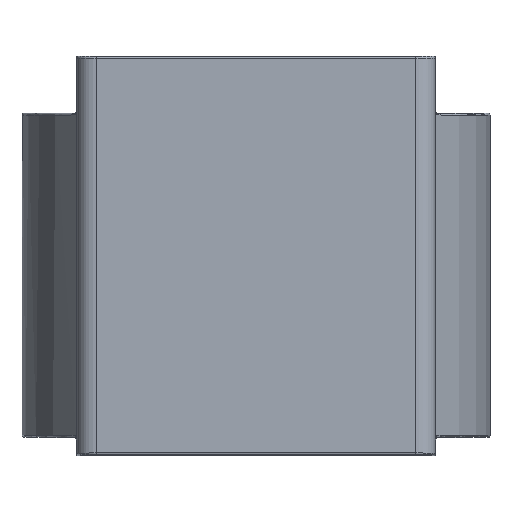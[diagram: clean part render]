
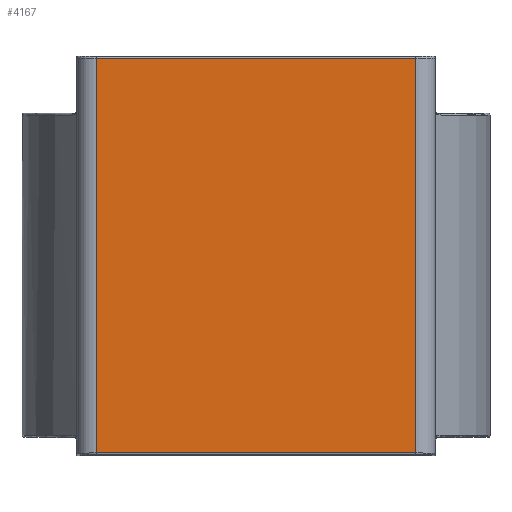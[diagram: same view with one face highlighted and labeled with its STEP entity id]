
A CAD part, top view. The second image highlights one B-rep face of the part: STEP entity #4167.
In plain terms, the highlighted planar face has unit normal (0, 0, 1).
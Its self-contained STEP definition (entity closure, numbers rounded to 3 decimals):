
#1249 = CYLINDRICAL_SURFACE('',#1250,2.2);
#1250 = AXIS2_PLACEMENT_3D('',#1251,#1252,#1253);
#1251 = CARTESIAN_POINT('',(-12.75,146.3,217.85));
#1252 = DIRECTION('',(0.,-1.,0.));
#1253 = DIRECTION('',(0.,0.,1.));
#2306 = EDGE_CURVE('',#2307,#2309,#2311,.T.);
#2307 = VERTEX_POINT('',#2308);
#2308 = CARTESIAN_POINT('',(-12.75,146.09,220.05));
#2309 = VERTEX_POINT('',#2310);
#2310 = CARTESIAN_POINT('',(-12.75,102.21,220.05));
#2311 = SURFACE_CURVE('',#2312,(#2316,#2323),.PCURVE_S1.);
#2312 = LINE('',#2313,#2314);
#2313 = CARTESIAN_POINT('',(-12.75,146.3,220.05));
#2314 = VECTOR('',#2315,1.);
#2315 = DIRECTION('',(0.,-1.,0.));
#2316 = PCURVE('',#1249,#2317);
#2317 = DEFINITIONAL_REPRESENTATION('',(#2318),#2322);
#2318 = LINE('',#2319,#2320);
#2319 = CARTESIAN_POINT('',(0.,0.));
#2320 = VECTOR('',#2321,1.);
#2321 = DIRECTION('',(0.,1.));
#2322 = ( GEOMETRIC_REPRESENTATION_CONTEXT(2) 
PARAMETRIC_REPRESENTATION_CONTEXT() REPRESENTATION_CONTEXT('2D SPACE',''
  ) );
#2323 = PCURVE('',#2324,#2329);
#2324 = PLANE('',#2325);
#2325 = AXIS2_PLACEMENT_3D('',#2326,#2327,#2328);
#2326 = CARTESIAN_POINT('',(24.95,146.3,220.05));
#2327 = DIRECTION('',(0.,0.,1.));
#2328 = DIRECTION('',(0.,-1.,0.));
#2329 = DEFINITIONAL_REPRESENTATION('',(#2330),#2334);
#2330 = LINE('',#2331,#2332);
#2331 = CARTESIAN_POINT('',(0.,-37.7));
#2332 = VECTOR('',#2333,1.);
#2333 = DIRECTION('',(1.,0.));
#2334 = ( GEOMETRIC_REPRESENTATION_CONTEXT(2) 
PARAMETRIC_REPRESENTATION_CONTEXT() REPRESENTATION_CONTEXT('2D SPACE',''
  ) );
#3394 = CYLINDRICAL_SURFACE('',#3395,0.21);
#3395 = AXIS2_PLACEMENT_3D('',#3396,#3397,#3398);
#3396 = CARTESIAN_POINT('',(-12.75,146.09,219.84));
#3397 = DIRECTION('',(1.,-0.,-0.));
#3398 = DIRECTION('',(0.,1.,-0.));
#3584 = CYLINDRICAL_SURFACE('',#3585,0.21);
#3585 = AXIS2_PLACEMENT_3D('',#3586,#3587,#3588);
#3586 = CARTESIAN_POINT('',(22.75,102.21,219.84));
#3587 = DIRECTION('',(-1.,0.,0.));
#3588 = DIRECTION('',(0.,0.,1.));
#4167 = ADVANCED_FACE('',(#4168),#2324,.T.);
#4168 = FACE_BOUND('',#4169,.T.);
#4169 = EDGE_LOOP('',(#4170,#4200,#4221,#4222));
#4170 = ORIENTED_EDGE('',*,*,#4171,.F.);
#4171 = EDGE_CURVE('',#4172,#4174,#4176,.T.);
#4172 = VERTEX_POINT('',#4173);
#4173 = CARTESIAN_POINT('',(22.75,146.09,220.05));
#4174 = VERTEX_POINT('',#4175);
#4175 = CARTESIAN_POINT('',(22.75,102.21,220.05));
#4176 = SURFACE_CURVE('',#4177,(#4181,#4188),.PCURVE_S1.);
#4177 = LINE('',#4178,#4179);
#4178 = CARTESIAN_POINT('',(22.75,146.3,220.05));
#4179 = VECTOR('',#4180,1.);
#4180 = DIRECTION('',(0.,-1.,0.));
#4181 = PCURVE('',#2324,#4182);
#4182 = DEFINITIONAL_REPRESENTATION('',(#4183),#4187);
#4183 = LINE('',#4184,#4185);
#4184 = CARTESIAN_POINT('',(0.,-2.2));
#4185 = VECTOR('',#4186,1.);
#4186 = DIRECTION('',(1.,0.));
#4187 = ( GEOMETRIC_REPRESENTATION_CONTEXT(2) 
PARAMETRIC_REPRESENTATION_CONTEXT() REPRESENTATION_CONTEXT('2D SPACE',''
  ) );
#4188 = PCURVE('',#4189,#4194);
#4189 = CYLINDRICAL_SURFACE('',#4190,2.2);
#4190 = AXIS2_PLACEMENT_3D('',#4191,#4192,#4193);
#4191 = CARTESIAN_POINT('',(22.75,146.3,217.85));
#4192 = DIRECTION('',(0.,-1.,0.));
#4193 = DIRECTION('',(0.,0.,1.));
#4194 = DEFINITIONAL_REPRESENTATION('',(#4195),#4199);
#4195 = LINE('',#4196,#4197);
#4196 = CARTESIAN_POINT('',(-0.,0.));
#4197 = VECTOR('',#4198,1.);
#4198 = DIRECTION('',(-0.,1.));
#4199 = ( GEOMETRIC_REPRESENTATION_CONTEXT(2) 
PARAMETRIC_REPRESENTATION_CONTEXT() REPRESENTATION_CONTEXT('2D SPACE',''
  ) );
#4200 = ORIENTED_EDGE('',*,*,#4201,.F.);
#4201 = EDGE_CURVE('',#2307,#4172,#4202,.T.);
#4202 = SURFACE_CURVE('',#4203,(#4207,#4214),.PCURVE_S1.);
#4203 = LINE('',#4204,#4205);
#4204 = CARTESIAN_POINT('',(-12.75,146.09,220.05));
#4205 = VECTOR('',#4206,1.);
#4206 = DIRECTION('',(1.,-0.,-0.));
#4207 = PCURVE('',#2324,#4208);
#4208 = DEFINITIONAL_REPRESENTATION('',(#4209),#4213);
#4209 = LINE('',#4210,#4211);
#4210 = CARTESIAN_POINT('',(0.21,-37.7));
#4211 = VECTOR('',#4212,1.);
#4212 = DIRECTION('',(0.,1.));
#4213 = ( GEOMETRIC_REPRESENTATION_CONTEXT(2) 
PARAMETRIC_REPRESENTATION_CONTEXT() REPRESENTATION_CONTEXT('2D SPACE',''
  ) );
#4214 = PCURVE('',#3394,#4215);
#4215 = DEFINITIONAL_REPRESENTATION('',(#4216),#4220);
#4216 = LINE('',#4217,#4218);
#4217 = CARTESIAN_POINT('',(1.571,0.));
#4218 = VECTOR('',#4219,1.);
#4219 = DIRECTION('',(0.,1.));
#4220 = ( GEOMETRIC_REPRESENTATION_CONTEXT(2) 
PARAMETRIC_REPRESENTATION_CONTEXT() REPRESENTATION_CONTEXT('2D SPACE',''
  ) );
#4221 = ORIENTED_EDGE('',*,*,#2306,.T.);
#4222 = ORIENTED_EDGE('',*,*,#4223,.F.);
#4223 = EDGE_CURVE('',#4174,#2309,#4224,.T.);
#4224 = SURFACE_CURVE('',#4225,(#4229,#4236),.PCURVE_S1.);
#4225 = LINE('',#4226,#4227);
#4226 = CARTESIAN_POINT('',(22.75,102.21,220.05));
#4227 = VECTOR('',#4228,1.);
#4228 = DIRECTION('',(-1.,0.,0.));
#4229 = PCURVE('',#2324,#4230);
#4230 = DEFINITIONAL_REPRESENTATION('',(#4231),#4235);
#4231 = LINE('',#4232,#4233);
#4232 = CARTESIAN_POINT('',(44.09,-2.2));
#4233 = VECTOR('',#4234,1.);
#4234 = DIRECTION('',(0.,-1.));
#4235 = ( GEOMETRIC_REPRESENTATION_CONTEXT(2) 
PARAMETRIC_REPRESENTATION_CONTEXT() REPRESENTATION_CONTEXT('2D SPACE',''
  ) );
#4236 = PCURVE('',#3584,#4237);
#4237 = DEFINITIONAL_REPRESENTATION('',(#4238),#4242);
#4238 = LINE('',#4239,#4240);
#4239 = CARTESIAN_POINT('',(-0.,0.));
#4240 = VECTOR('',#4241,1.);
#4241 = DIRECTION('',(-0.,1.));
#4242 = ( GEOMETRIC_REPRESENTATION_CONTEXT(2) 
PARAMETRIC_REPRESENTATION_CONTEXT() REPRESENTATION_CONTEXT('2D SPACE',''
  ) );
